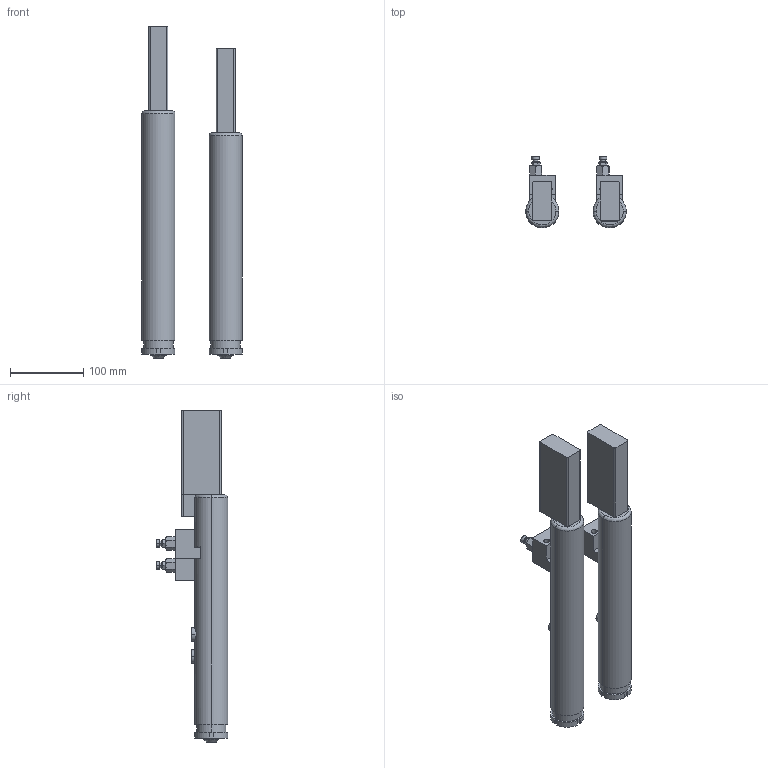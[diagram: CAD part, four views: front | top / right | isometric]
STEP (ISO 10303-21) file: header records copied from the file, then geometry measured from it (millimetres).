
FILE_DESCRIPTION (( 'STEP AP203' ), '1' );
FILE_NAME ('BE 215-2111 and 2122-21220 with limit impulsers.STEP', '2009-09-02T08:56:17', ( 'HP' ), ( '' ), 'SwSTEP 2.0', 'SolidWorks 2008', '' );
FILE_SCHEMA (( 'CONFIG_CONTROL_DESIGN' ));
Length unit declared in the file: millimetre
Products named in the file (16): Cylindrar BE215-2111; Lättrad justerskruv; 400505; 400515; Cylindrar BE2122-21220; 041J004003 keychuck 0,5-6,5mm; BE 215-2111 and 2122-21220 with limit impulsers; BE215-2111; BE2122-21220; 400551A; Anslutning; s酹e; Pl廞 f顤 givarna; ISO 4032  M6; 400517; 400552A
Assembly tree (28 placements, depth 3):
  BE 215-2111 and 2122-21220 with limit impulsers
    BE2122-21220
      041J004003 keychuck 0,5-6,5mm
      400551A  x2
      ISO 4032  M6
      s酹e
      400505
      Pl廞 f顤 givarna
      Cylindrar BE2122-21220
      Anslutning
      400517
      Lättrad justerskruv
      400515
      400552A
    BE215-2111
      400552A
      Lättrad justerskruv
      400517
      ISO 4032  M6
      Anslutning
      Cylindrar BE215-2111
      041J004003 keychuck 0,5-6,5mm
      s酹e
      400515
      400551A  x2
      Pl廞 f顤 givarna
      400505
Bounding box: 136.51 x 97.5 x 451.9 mm (x, y, z)
Volume: 1355824 mm3; surface area: 213296.3 mm2
Topology: 28 solids, 28 shells, 662 faces, 1595 edges, 997 vertices
Faces by surface type: plane 390, cylinder 150, cone 84, bspline 34, torus 4
Entity records: 12772 total; most frequent: CARTESIAN_POINT 2773, DIRECTION 1682, ORIENTED_EDGE 1642, EDGE_CURVE 821, AXIS2_PLACEMENT_3D 611, VERTEX_POINT 524, LINE 460, VECTOR 460
